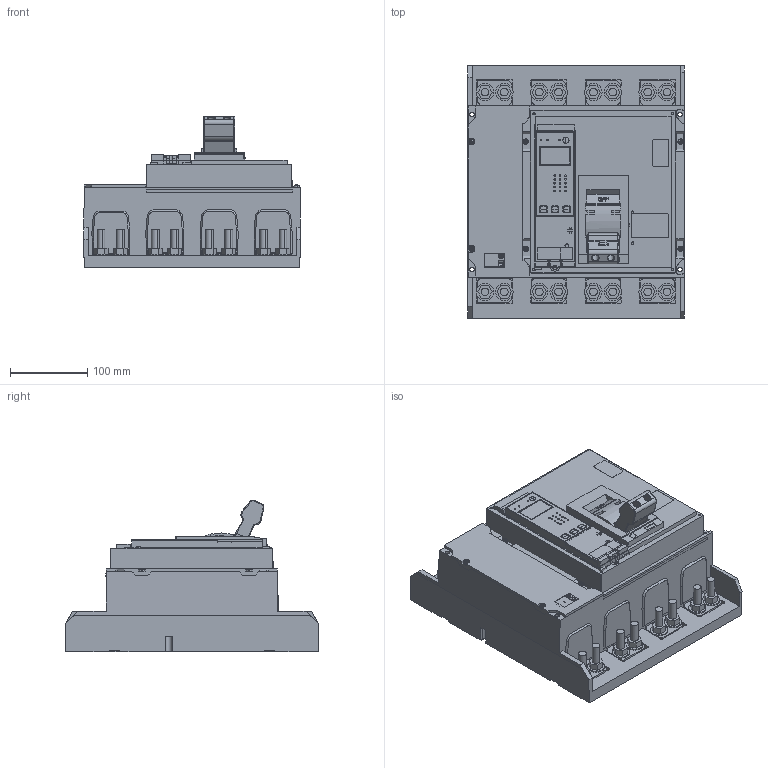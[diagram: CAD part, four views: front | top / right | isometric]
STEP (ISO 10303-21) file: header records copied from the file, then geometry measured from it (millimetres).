
FILE_DESCRIPTION((''),'2;1');
FILE_NAME('1649247037505_ASM','2022-04-06T17:41:06',('SESA621925'),('Schneider-Electric'),'CREO PARAMETRIC BY PTC INC, 2019471','CREO PARAMETRIC BY PTC INC, 2019471','');
FILE_SCHEMA(('AP242_MANAGED_MODEL_BASED_3D_ENGINEERING_MIM_LF { 1 0 10303 442 1 1 4 }'));
Products named in the file (14): EMPTYNODE_1649247037574_ASM; C063N420FM_1; 0444121500; C063N420FM_ASM; C063N420FM-3D_ASM; COVER-ASSY-C063N320FM_C_1; COVER-ASSY-C063N320FM-3D_ASM; HANDLE-ASSY-C063N320FM; HANDLE-ASSY-C063N320FM-3D_ASM; 35069; 0444320800_C; 35069_ASM; 35069-3D_ASM; 1649247037505_ASM
Assembly tree (13 placements, depth 4):
  1649247037505_ASM
    EMPTYNODE_1649247037574_ASM
    C063N420FM-3D_ASM
      C063N420FM_ASM
        C063N420FM_1
        0444121500
    COVER-ASSY-C063N320FM-3D_ASM
      COVER-ASSY-C063N320FM_C_1
    HANDLE-ASSY-C063N320FM-3D_ASM
      HANDLE-ASSY-C063N320FM
    35069-3D_ASM
      35069_ASM
        35069
        0444320800_C
Bounding box: 280 x 326.53 x 196.18 mm (x, y, z)
Volume: 7199941.7 mm3; surface area: 665515.3 mm2
Topology: 18 solids, 18 shells, 2750 faces, 7525 edges, 4997 vertices
Faces by surface type: plane 1991, cylinder 609, bspline 44, torus 42, extrusion 34, cone 22, sphere 8
Entity records: 126279 total; most frequent: CARTESIAN_POINT 19132, ORIENTED_EDGE 14968, DIRECTION 14191, PRESENTATION_STYLE_ASSIGNMENT 8628, STYLED_ITEM 7566, CURVE_STYLE 7533, EDGE_CURVE 7484, VECTOR 5721
